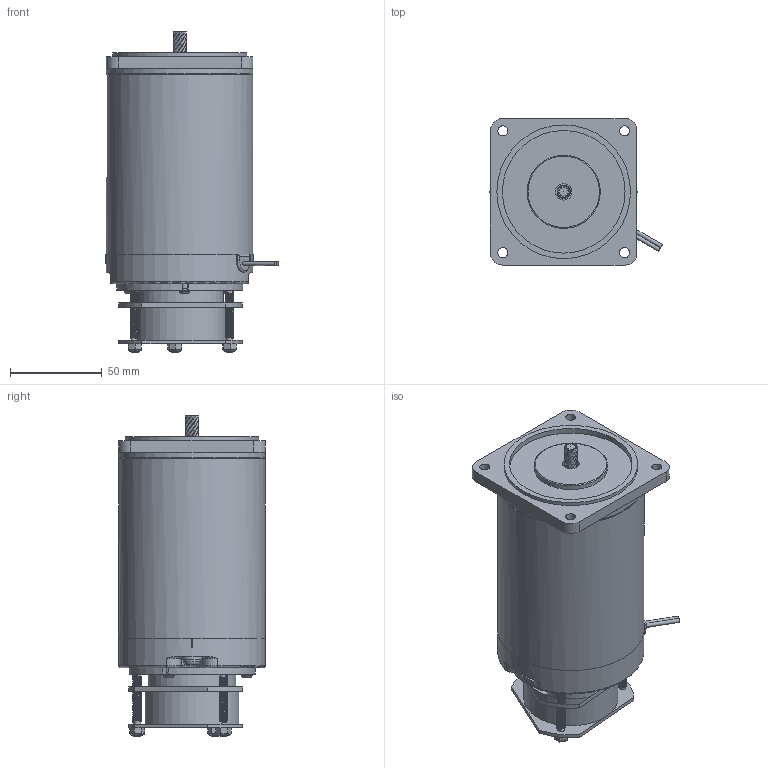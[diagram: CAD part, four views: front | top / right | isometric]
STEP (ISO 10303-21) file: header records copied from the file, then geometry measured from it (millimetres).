
FILE_DESCRIPTION((''),'2;1');
FILE_NAME('D:\yang\Yang cw\SPG 업무\2. DC MOTOR\7. DC MOTOR 브로슈어\ELECTRIC-BRAKE ASSEMBLY DC MOTOR\3D\STEP\S8D40-24A(OB85) GEAR.stp','2015-03-10T13:49:07',('ycw1227'),(''),'Autodesk Inventor 2013','Autodesk Inventor 2013','');
FILE_SCHEMA(('AUTOMOTIVE_DESIGN { 1 0 10303 214 1 1 1 1 }'));
Length unit declared in the file: millimetre
Products named in the file (1): 부품18
Bounding box: 94.43 x 80 x 175.1 mm (x, y, z)
Volume: 697207.2 mm3; surface area: 65906.1 mm2
Topology: 1 solids, 6 shells, 473 faces, 1228 edges, 767 vertices
Faces by surface type: plane 176, cylinder 147, cone 61, bspline 42, torus 42, sphere 5
Full cylindrical faces by diameter (mm): 0.1 x1, 2.2 x2, 2.459 x3, 2.693 x3, 3 x3, 3.8 x21, 4.567 x2, 5 x2, 5.4 x2, 5.5 x4, 5.6 x2, 8 x2, 9 x1, 10 x1, 11 x2, 26 x2, 40 x1, 48 x1, 51.5 x1, 67 x1, 73 x1, 80 x3
Entity records: 77502 total; most frequent: CARTESIAN_POINT 67337, ORIENTED_EDGE 2024, DIRECTION 1913, EDGE_CURVE 1012, AXIS2_PLACEMENT_3D 780, VERTEX_POINT 667, EDGE_LOOP 574, FACE_OUTER_BOUND 448
